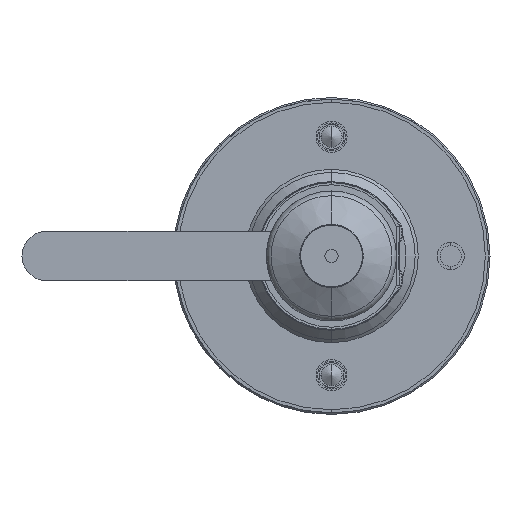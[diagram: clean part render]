
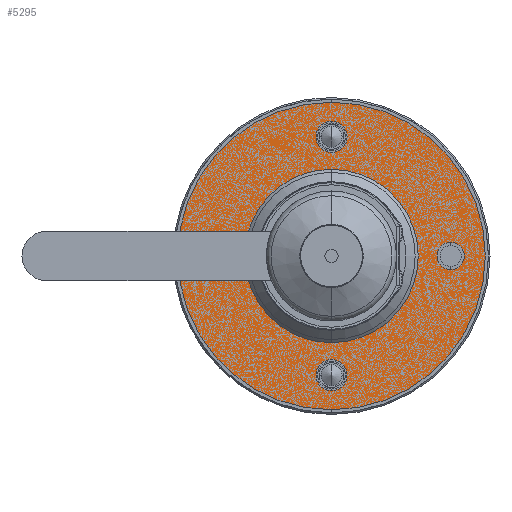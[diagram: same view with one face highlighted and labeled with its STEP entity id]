
A CAD part, front view. The second image highlights one B-rep face of the part: STEP entity #5295.
In plain terms, the highlighted planar face has unit normal (0, -1, 0) as drawn and (0, 0, -1) by its records, which use the part's own axes.
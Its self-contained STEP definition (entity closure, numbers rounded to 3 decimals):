
#497 = EDGE_CURVE ( 'NONE', #6494, #23111, #5414, .T. ) ;
#526 = ORIENTED_EDGE ( 'NONE', *, *, #3612, .T. ) ;
#803 = DIRECTION ( 'NONE',  ( -1., 0., 0. ) ) ;
#1008 = AXIS2_PLACEMENT_3D ( 'NONE', #8387, #17752, #22668 ) ;
#1295 = EDGE_CURVE ( 'NONE', #14560, #16486, #18592, .T. ) ;
#1318 = DIRECTION ( 'NONE',  ( -1., 0., 0. ) ) ;
#1344 = ORIENTED_EDGE ( 'NONE', *, *, #3914, .T. ) ;
#2447 = CIRCLE ( 'NONE', #15232, 5. ) ;
#3500 = DIRECTION ( 'NONE',  ( -1., 0., 0. ) ) ;
#3510 = CARTESIAN_POINT ( 'NONE',  ( 0., 38.5, 0. ) ) ;
#3612 = EDGE_CURVE ( 'NONE', #23967, #21778, #24561, .T. ) ;
#3814 = FACE_BOUND ( 'NONE', #5161, .T. ) ;
#3914 = EDGE_CURVE ( 'NONE', #13818, #16104, #2447, .T. ) ;
#3994 = CIRCLE ( 'NONE', #21146, 5. ) ;
#4681 = DIRECTION ( 'NONE',  ( 0., 0., 1. ) ) ;
#5161 = EDGE_LOOP ( 'NONE', ( #18750, #1344 ) ) ;
#5257 = EDGE_CURVE ( 'NONE', #16486, #14560, #9888, .T. ) ;
#5295 = ADVANCED_FACE ( 'NONE', ( #15498, #24857, #17638, #3814, #13047, #11036 ), #29616, .T. ) ;
#5414 = CIRCLE ( 'NONE', #24563, 5. ) ;
#5574 = DIRECTION ( 'NONE',  ( 0., 0., 1. ) ) ;
#5607 = EDGE_CURVE ( 'NONE', #16104, #13818, #3994, .T. ) ;
#5794 = CARTESIAN_POINT ( 'NONE',  ( 0., -38.5, 0. ) ) ;
#5803 = DIRECTION ( 'NONE',  ( 0., 0., 1. ) ) ;
#6324 = EDGE_CURVE ( 'NONE', #22547, #14309, #18784, .T. ) ;
#6481 = ORIENTED_EDGE ( 'NONE', *, *, #10551, .T. ) ;
#6494 = VERTEX_POINT ( 'NONE', #24815 ) ;
#6641 = EDGE_LOOP ( 'NONE', ( #7402, #526 ) ) ;
#6909 = AXIS2_PLACEMENT_3D ( 'NONE', #3510, #5803, #10724 ) ;
#7277 = VERTEX_POINT ( 'NONE', #25880 ) ;
#7402 = ORIENTED_EDGE ( 'NONE', *, *, #16560, .T. ) ;
#7653 = CARTESIAN_POINT ( 'NONE',  ( 4.4, -38.5, 0. ) ) ;
#7662 = CARTESIAN_POINT ( 'NONE',  ( -43.5, 0., 0. ) ) ;
#7663 = AXIS2_PLACEMENT_3D ( 'NONE', #27394, #27985, #11116 ) ;
#8158 = AXIS2_PLACEMENT_3D ( 'NONE', #20885, #20440, #18578 ) ;
#8387 = CARTESIAN_POINT ( 'NONE',  ( 0., 0., 0. ) ) ;
#9863 = AXIS2_PLACEMENT_3D ( 'NONE', #27018, #17946, #22399 ) ;
#9888 = CIRCLE ( 'NONE', #6909, 4.4 ) ;
#10551 = EDGE_CURVE ( 'NONE', #7277, #17379, #22178, .T. ) ;
#10724 = DIRECTION ( 'NONE',  ( -1., 0., 0. ) ) ;
#10949 = DIRECTION ( 'NONE',  ( -1., 0., 0. ) ) ;
#11036 = FACE_BOUND ( 'NONE', #17879, .T. ) ;
#11057 = CARTESIAN_POINT ( 'NONE',  ( 0., 0., 0. ) ) ;
#11116 = DIRECTION ( 'NONE',  ( -1., 0., 0. ) ) ;
#11459 = ORIENTED_EDGE ( 'NONE', *, *, #29975, .T. ) ;
#12700 = CARTESIAN_POINT ( 'NONE',  ( 33.5, 0., 0. ) ) ;
#12963 = CARTESIAN_POINT ( 'NONE',  ( 38.5, 0., 0. ) ) ;
#13012 = ORIENTED_EDGE ( 'NONE', *, *, #5257, .T. ) ;
#13047 = FACE_BOUND ( 'NONE', #13410, .T. ) ;
#13410 = EDGE_LOOP ( 'NONE', ( #11459, #18980 ) ) ;
#13818 = VERTEX_POINT ( 'NONE', #17931 ) ;
#14245 = AXIS2_PLACEMENT_3D ( 'NONE', #11057, #27643, #20414 ) ;
#14309 = VERTEX_POINT ( 'NONE', #24808 ) ;
#14428 = DIRECTION ( 'NONE',  ( -1., 0., 0. ) ) ;
#14560 = VERTEX_POINT ( 'NONE', #22463 ) ;
#14907 = DIRECTION ( 'NONE',  ( 0., 0., 1. ) ) ;
#15232 = AXIS2_PLACEMENT_3D ( 'NONE', #22011, #19253, #803 ) ;
#15498 = FACE_OUTER_BOUND ( 'NONE', #6641, .T. ) ;
#15693 = ORIENTED_EDGE ( 'NONE', *, *, #1295, .T. ) ;
#16104 = VERTEX_POINT ( 'NONE', #12700 ) ;
#16139 = CARTESIAN_POINT ( 'NONE',  ( 49.675, 0., 0. ) ) ;
#16486 = VERTEX_POINT ( 'NONE', #30150 ) ;
#16560 = EDGE_CURVE ( 'NONE', #21778, #23967, #22363, .T. ) ;
#17379 = VERTEX_POINT ( 'NONE', #7653 ) ;
#17638 = FACE_BOUND ( 'NONE', #23795, .T. ) ;
#17709 = EDGE_CURVE ( 'NONE', #17379, #7277, #20420, .T. ) ;
#17752 = DIRECTION ( 'NONE',  ( 0., 0., 1. ) ) ;
#17879 = EDGE_LOOP ( 'NONE', ( #26580, #29579 ) ) ;
#17931 = CARTESIAN_POINT ( 'NONE',  ( 43.5, 0., 0. ) ) ;
#17946 = DIRECTION ( 'NONE',  ( 0., 0., -1. ) ) ;
#18523 = CARTESIAN_POINT ( 'NONE',  ( 0., 0., 0. ) ) ;
#18578 = DIRECTION ( 'NONE',  ( -1., 0., 0. ) ) ;
#18592 = CIRCLE ( 'NONE', #29402, 4.4 ) ;
#18714 = AXIS2_PLACEMENT_3D ( 'NONE', #5794, #29604, #3500 ) ;
#18750 = ORIENTED_EDGE ( 'NONE', *, *, #5607, .T. ) ;
#18784 = CIRCLE ( 'NONE', #29589, 22. ) ;
#18980 = ORIENTED_EDGE ( 'NONE', *, *, #497, .T. ) ;
#19253 = DIRECTION ( 'NONE',  ( 0., 0., 1. ) ) ;
#19344 = CARTESIAN_POINT ( 'NONE',  ( -38.5, 0., 0. ) ) ;
#19559 = DIRECTION ( 'NONE',  ( 0., 0., 1. ) ) ;
#20145 = CIRCLE ( 'NONE', #1008, 22. ) ;
#20414 = DIRECTION ( 'NONE',  ( -1., 0., 0. ) ) ;
#20420 = CIRCLE ( 'NONE', #8158, 4.4 ) ;
#20440 = DIRECTION ( 'NONE',  ( 0., 0., 1. ) ) ;
#20885 = CARTESIAN_POINT ( 'NONE',  ( 0., -38.5, 0. ) ) ;
#21146 = AXIS2_PLACEMENT_3D ( 'NONE', #12963, #5574, #10949 ) ;
#21557 = DIRECTION ( 'NONE',  ( -1., 0., 0. ) ) ;
#21778 = VERTEX_POINT ( 'NONE', #16139 ) ;
#22011 = CARTESIAN_POINT ( 'NONE',  ( 38.5, 0., 0. ) ) ;
#22118 = EDGE_LOOP ( 'NONE', ( #6481, #22675 ) ) ;
#22163 = AXIS2_PLACEMENT_3D ( 'NONE', #19344, #14907, #14428 ) ;
#22178 = CIRCLE ( 'NONE', #18714, 4.4 ) ;
#22363 = CIRCLE ( 'NONE', #7663, 49.675 ) ;
#22399 = DIRECTION ( 'NONE',  ( -1., 0., 0. ) ) ;
#22463 = CARTESIAN_POINT ( 'NONE',  ( -4.4, 38.5, 0. ) ) ;
#22547 = VERTEX_POINT ( 'NONE', #28905 ) ;
#22668 = DIRECTION ( 'NONE',  ( 1., 0., 0. ) ) ;
#22675 = ORIENTED_EDGE ( 'NONE', *, *, #17709, .T. ) ;
#23111 = VERTEX_POINT ( 'NONE', #7662 ) ;
#23795 = EDGE_LOOP ( 'NONE', ( #15693, #13012 ) ) ;
#23967 = VERTEX_POINT ( 'NONE', #29770 ) ;
#24561 = CIRCLE ( 'NONE', #14245, 49.675 ) ;
#24563 = AXIS2_PLACEMENT_3D ( 'NONE', #27001, #24700, #1318 ) ;
#24617 = CIRCLE ( 'NONE', #22163, 5. ) ;
#24700 = DIRECTION ( 'NONE',  ( 0., 0., 1. ) ) ;
#24808 = CARTESIAN_POINT ( 'NONE',  ( 22., 0., 0. ) ) ;
#24815 = CARTESIAN_POINT ( 'NONE',  ( -33.5, 0., 0. ) ) ;
#24857 = FACE_BOUND ( 'NONE', #22118, .T. ) ;
#25880 = CARTESIAN_POINT ( 'NONE',  ( -4.4, -38.5, 0. ) ) ;
#26580 = ORIENTED_EDGE ( 'NONE', *, *, #28558, .T. ) ;
#27001 = CARTESIAN_POINT ( 'NONE',  ( -38.5, 0., 0. ) ) ;
#27018 = CARTESIAN_POINT ( 'NONE',  ( 22., 0., 0. ) ) ;
#27394 = CARTESIAN_POINT ( 'NONE',  ( 0., 0., 0. ) ) ;
#27643 = DIRECTION ( 'NONE',  ( 0., 0., -1. ) ) ;
#27900 = DIRECTION ( 'NONE',  ( 1., 0., 0. ) ) ;
#27985 = DIRECTION ( 'NONE',  ( 0., 0., -1. ) ) ;
#28558 = EDGE_CURVE ( 'NONE', #14309, #22547, #20145, .T. ) ;
#28627 = CARTESIAN_POINT ( 'NONE',  ( 0., 38.5, 0. ) ) ;
#28905 = CARTESIAN_POINT ( 'NONE',  ( -22., 0., 0. ) ) ;
#29402 = AXIS2_PLACEMENT_3D ( 'NONE', #28627, #19559, #21557 ) ;
#29579 = ORIENTED_EDGE ( 'NONE', *, *, #6324, .T. ) ;
#29589 = AXIS2_PLACEMENT_3D ( 'NONE', #18523, #4681, #27900 ) ;
#29604 = DIRECTION ( 'NONE',  ( 0., 0., 1. ) ) ;
#29616 = PLANE ( 'NONE',  #9863 ) ;
#29770 = CARTESIAN_POINT ( 'NONE',  ( -49.675, 0., 0. ) ) ;
#29975 = EDGE_CURVE ( 'NONE', #23111, #6494, #24617, .T. ) ;
#30150 = CARTESIAN_POINT ( 'NONE',  ( 4.4, 38.5, 0. ) ) ;
